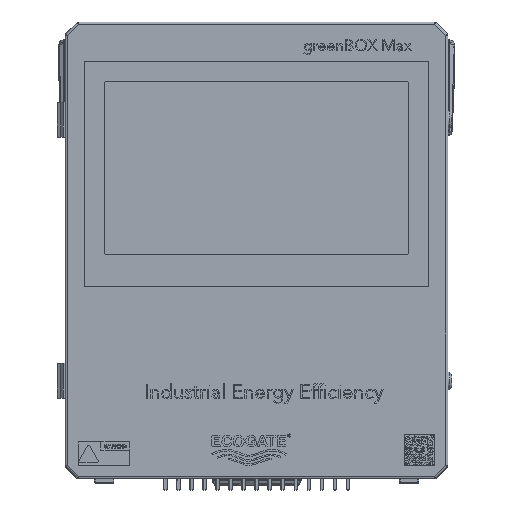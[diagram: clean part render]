
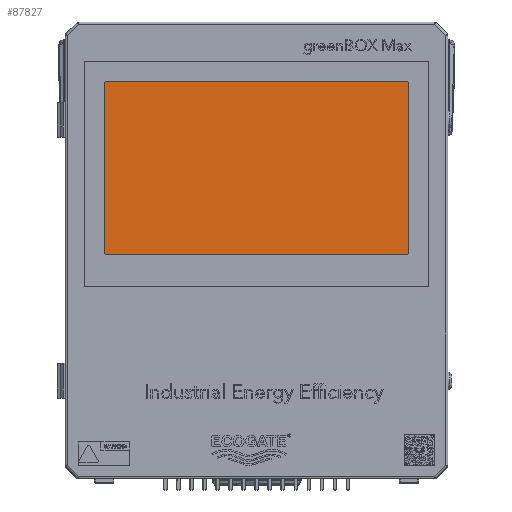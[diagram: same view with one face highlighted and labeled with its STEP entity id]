
A CAD part, top view. The second image highlights one B-rep face of the part: STEP entity #87827.
In plain terms, the highlighted planar face has unit normal (0, 0, 1).
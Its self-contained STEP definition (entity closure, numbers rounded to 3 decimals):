
#87752=CARTESIAN_POINT('',(0.,0.,163.));
#87753=DIRECTION('',(1.,0.,0.));
#87754=DIRECTION('',(0.,0.,1.));
#87755=AXIS2_PLACEMENT_3D('',#87752,#87754,#87753);
#87756=PLANE('',#87755);
#87757=CARTESIAN_POINT('',(174.778,192.169,163.));
#87758=VERTEX_POINT('',#87757);
#87759=CARTESIAN_POINT('',(174.778,-2.831,163.));
#87760=VERTEX_POINT('',#87759);
#87761=CARTESIAN_POINT('',(174.778,192.169,163.));
#87762=DIRECTION('',(0.,-1.,0.));
#87763=VECTOR('',#87762,195.);
#87764=LINE('',#87761,#87763);
#87765=EDGE_CURVE('',#87758,#87760,#87764,.T.);
#87766=ORIENTED_EDGE('',*,*,#87765,.F.);
#87767=CARTESIAN_POINT('',(172.778,194.169,163.));
#87768=VERTEX_POINT('',#87767);
#87769=CARTESIAN_POINT('',(172.778,192.169,163.));
#87770=DIRECTION('',(0.,1.,0.));
#87771=DIRECTION('',(0.,0.,-1.));
#87772=AXIS2_PLACEMENT_3D('',#87769,#87771,#87770);
#87773=CIRCLE('',#87772,2.);
#87774=EDGE_CURVE('',#87768,#87758,#87773,.T.);
#87775=ORIENTED_EDGE('',*,*,#87774,.F.);
#87776=CARTESIAN_POINT('',(-172.782,194.169,163.));
#87777=VERTEX_POINT('',#87776);
#87778=CARTESIAN_POINT('',(-172.782,194.169,163.));
#87779=DIRECTION('',(1.,0.,0.));
#87780=VECTOR('',#87779,345.56);
#87781=LINE('',#87778,#87780);
#87782=EDGE_CURVE('',#87777,#87768,#87781,.T.);
#87783=ORIENTED_EDGE('',*,*,#87782,.F.);
#87784=CARTESIAN_POINT('',(-174.782,192.169,163.));
#87785=VERTEX_POINT('',#87784);
#87786=CARTESIAN_POINT('',(-172.782,192.169,163.));
#87787=DIRECTION('',(-1.,0.,0.));
#87788=DIRECTION('',(0.,0.,-1.));
#87789=AXIS2_PLACEMENT_3D('',#87786,#87788,#87787);
#87790=CIRCLE('',#87789,2.);
#87791=EDGE_CURVE('',#87785,#87777,#87790,.T.);
#87792=ORIENTED_EDGE('',*,*,#87791,.F.);
#87793=CARTESIAN_POINT('',(-174.782,-2.831,163.));
#87794=VERTEX_POINT('',#87793);
#87795=CARTESIAN_POINT('',(-174.782,-2.831,163.));
#87796=DIRECTION('',(0.,1.,0.));
#87797=VECTOR('',#87796,195.);
#87798=LINE('',#87795,#87797);
#87799=EDGE_CURVE('',#87794,#87785,#87798,.T.);
#87800=ORIENTED_EDGE('',*,*,#87799,.F.);
#87801=CARTESIAN_POINT('',(-172.782,-4.831,163.));
#87802=VERTEX_POINT('',#87801);
#87803=CARTESIAN_POINT('',(-172.782,-2.831,163.));
#87804=DIRECTION('',(0.,-1.,0.));
#87805=DIRECTION('',(0.,0.,-1.));
#87806=AXIS2_PLACEMENT_3D('',#87803,#87805,#87804);
#87807=CIRCLE('',#87806,2.);
#87808=EDGE_CURVE('',#87802,#87794,#87807,.T.);
#87809=ORIENTED_EDGE('',*,*,#87808,.F.);
#87810=CARTESIAN_POINT('',(172.778,-4.831,163.));
#87811=VERTEX_POINT('',#87810);
#87812=CARTESIAN_POINT('',(172.778,-4.831,163.));
#87813=DIRECTION('',(-1.,0.,0.));
#87814=VECTOR('',#87813,345.56);
#87815=LINE('',#87812,#87814);
#87816=EDGE_CURVE('',#87811,#87802,#87815,.T.);
#87817=ORIENTED_EDGE('',*,*,#87816,.F.);
#87818=CARTESIAN_POINT('',(172.778,-2.831,163.));
#87819=DIRECTION('',(1.,0.,0.));
#87820=DIRECTION('',(0.,0.,-1.));
#87821=AXIS2_PLACEMENT_3D('',#87818,#87820,#87819);
#87822=CIRCLE('',#87821,2.);
#87823=EDGE_CURVE('',#87760,#87811,#87822,.T.);
#87824=ORIENTED_EDGE('',*,*,#87823,.F.);
#87825=EDGE_LOOP('',(#87766,#87775,#87783,#87792,#87800,#87809,#87817,#87824));
#87826=FACE_OUTER_BOUND('',#87825,.T.);
#87827=ADVANCED_FACE('',(#87826),#87756,.T.);
